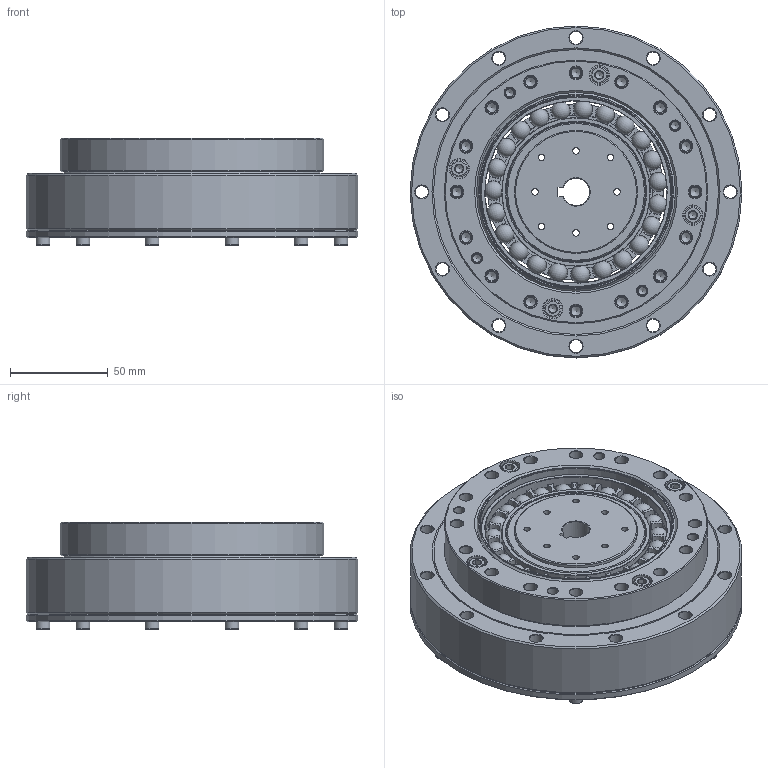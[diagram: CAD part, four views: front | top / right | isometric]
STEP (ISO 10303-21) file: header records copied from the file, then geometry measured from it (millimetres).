
FILE_DESCRIPTION(/* description */ (''),/* implementation_level */ '2;1');
FILE_NAME(/* name */ 'FHG-40-XX-U-I(孔径14).stp',/* time_stamp */ '2024-11-30T16:29:01+08:00',/* author */ (''),/* organization */ (''),/* preprocessor_version */ 'ST-DEVELOPER v16.7',/* originating_system */ 'SIEMENS PLM Software NX 12.0',/* authorisation */ '');
FILE_SCHEMA (('AUTOMOTIVE_DESIGN { 1 0 10303 214 3 1 1 1 }'));
Length unit declared in the file: millimetre
Products named in the file (15): EB719815-40KCH-46; EB719815-40KCH-04; EB719815-40KCH-02; EB719815-40KCH-01; TC-132x146x7; GB-T70.1-2000,M5x16; GB-T70.1-2000,M4x10; 发生器FSG-40-XXDL直径14_stp; O型密封圈113-108.25-1.5; O型密封圈148-142.6-1.5; 刚轮FHG-40; 柔轮FHG-40; EB719815-40KCH_stp; 交叉轴承LHT-40; FHG-40-XX-U-I(孔径14)
Assembly tree (22 placements, depth 3):
  FHG-40-XX-U-I(孔径14)
    柔轮FHG-40
    刚轮FHG-40
    交叉轴承LHT-40
      TC-132x146x7
    O型密封圈148-142.6-1.5
    O型密封圈113-108.25-1.5
    发生器FSG-40-XXDL直径14_stp
    EB719815-40KCH_stp
      EB719815-40KCH-01
      EB719815-40KCH-02
      EB719815-40KCH-04
      EB719815-40KCH-46
    GB-T70.1-2000,M4x10  x6
    GB-T70.1-2000,M5x16  x4
Bounding box: 170 x 170 x 55 mm (x, y, z)
Volume: 584316.4 mm3; surface area: 262181.4 mm2
Topology: 44 solids, 44 shells, 903 faces, 2093 edges, 1267 vertices
Faces by surface type: cone 310, plane 246, cylinder 233, torus 89, sphere 23, bspline 2
Full cylindrical faces by diameter (mm): 2.5 x4, 3.3 x28, 3.838 x6, 4.2 x8, 4.5 x12, 4.826 x4, 5 x16, 5.5 x8, 6.6 x40, 7 x6, 8.5 x4, 10 x4, 32 x1, 63 x1, 68.8 x1, 71.12 x2, 76.14 x2, 78.9 x1, 87 x1, 90.1 x1, 93.27 x2, 98.171 x2, 99.345 x1, 101.923 x1, 102.44 x1, 105 x1, 108 x2, 108.25 x2, 109 x1, 113 x2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
Entity records: 20011 total; most frequent: CARTESIAN_POINT 5282, DIRECTION 3186, ORIENTED_EDGE 2162, AXIS2_PLACEMENT_3D 1509, EDGE_LOOP 1251, FACE_BOUND 1099, EDGE_CURVE 1081, VERTEX_POINT 933
